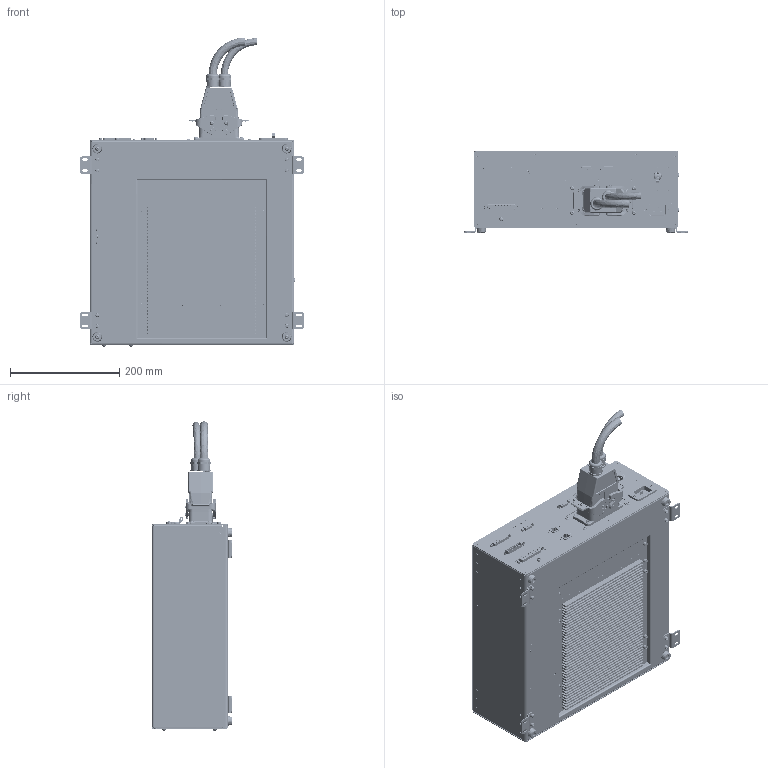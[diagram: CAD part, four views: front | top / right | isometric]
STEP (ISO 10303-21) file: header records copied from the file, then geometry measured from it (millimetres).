
FILE_DESCRIPTION (( 'STEP AP214' ), '1' );
FILE_NAME ('RC60B-DEX.STEP', '2024-05-28T01:24:44', ( '' ), ( '' ), 'SwSTEP 2.0', 'SolidWorks 2021', '' );
FILE_SCHEMA (( 'AUTOMOTIVE_DESIGN' ));
Length unit declared in the file: millimetre
Products named in the file (37): RC60B-DEX 諷秶嶄.STEP; RC60A-DAX-01-10 ________.STEP; 重载线束弯曲示意图; ________________ M4__6.STEP; E_0100.2026_03.STEP; RC60A-DAX-01-02 ______.STEP; __________.STEP; DS-UNC-2P.STEP; ________.STEP; ____________________ M4__12.STEP; RC60A-DAX-01-05 IO________.STEP; RC60A-DAX ________.STEP; ________-1.STEP; DS-UNC-2P-0.STEP; RC60A-DAX-01-01 ____.STEP; RC60A-DAX-01-06 __________.STEP; ________________ M4__8.STEP; DM-9SS(MISUMI).STEP; DS-UNC-2P-2.STEP; RC40A-DEX-02-01__________A.STEP; RC60-DFX-01-01 ______.STEP; ______________ M2.5__6.STEP; ______ BB2-B0-42-616-12B-E.STEP; CDRD-6A05-A01.STEP; ____________ LH-JK.STEP; ____________________ M4__8.STEP; ______________ M4__10.STEP; RC60A-DAX-01-12 __________.STEP; RC60A-DEX-02-02________.STEP; RC60A-DAX-01-04 ______.STEP; RC60B-DEX; E7.820.003A.STEP; DS-UNC-2P-3.STEP; ________ 18__15__8.STEP; CDRC6-V1-TD-SOA-01-M1_CDRC6.STEP; GB__T6170-20001__________A____B__M4.STEP; ______________ M3__6.STEP
Assembly tree (143 placements, depth 5):
  RC60B-DEX
    RC60B-DEX 諷秶嶄.STEP
      RC60A-DAX ________.STEP
        CDRC6-V1-TD-SOA-01-M1_CDRC6.STEP
          __________.STEP
        RC60-DFX-01-01 ______.STEP
        ____________ LH-JK.STEP
        ______ BB2-B0-42-616-12B-E.STEP
        E_0100.2026_03.STEP
        DM-9SS(MISUMI).STEP  x2
        DS-UNC-2P.STEP
        DS-UNC-2P-0.STEP
        E7.820.003A.STEP
        RC60A-DAX-01-05 IO________.STEP
        ________.STEP
        ________-1.STEP
        DS-UNC-2P-2.STEP
        DS-UNC-2P-3.STEP
      RC60A-DAX-01-01 ____.STEP
      RC60A-DAX-01-02 ______.STEP
      RC60A-DAX-01-06 __________.STEP
      RC60A-DAX-01-04 ______.STEP
      ________ 18__15__8.STEP  x4
      RC60A-DAX-01-10 ________.STEP  x4
      ____________________ M4__12.STEP  x4
      ____________________ M4__8.STEP  x34
      GB__T6170-20001__________A____B__M4.STEP  x2
      ______________ M4__10.STEP  x3
      ______________ M2.5__6.STEP  x6
      RC60A-DAX-01-12 __________.STEP
      ______________ M3__6.STEP  x39
      ________________ M4__8.STEP  x8
      ________________ M4__6.STEP  x12
      CDRD-6A05-A01.STEP
      RC60A-DEX-02-02________.STEP
      RC40A-DEX-02-01__________A.STEP
    重载线束弯曲示意图
Bounding box: 411 x 148 x 566.55 mm (x, y, z)
Volume: 1319953.7 mm3; surface area: 1453464.8 mm2
Topology: 206 solids, 256 shells, 21161 faces, 56720 edges, 36664 vertices
Faces by surface type: plane 13381, cylinder 3949, bspline 1923, cone 1830, torus 70, sphere 8
Entity records: 623733 total; most frequent: CARTESIAN_POINT 174531, ORIENTED_EDGE 95718, DIRECTION 83465, EDGE_CURVE 47956, VECTOR 36845, LINE 36845, VERTEX_POINT 31345, AXIS2_PLACEMENT_3D 23310
